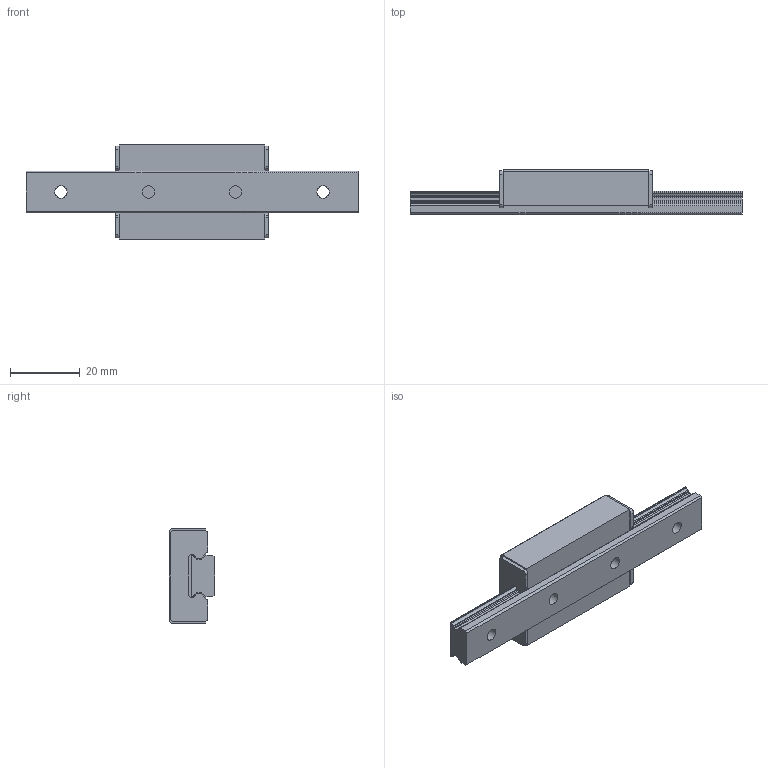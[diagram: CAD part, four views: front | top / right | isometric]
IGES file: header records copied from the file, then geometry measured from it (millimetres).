
Start section: Data from Parasolid IGES Translator 26.0.171, Copyright(c) 2006 Siemens PLM Software. All Rights Reserved.
Global section: file name: EPF12M27-95LM_G10_0_25-65_1.igs; native system: By Siemens PLM Incorporated; preprocessor: XPlus GENERIC/IGES 26.0.171; author: Noname; organization: Noname; date: 20240521.041249; units: millimetre
Bounding box: 95 x 13 x 27 mm (x, y, z)
Surface area: 8594.9 mm2 (no closed solid volume)
Topology: 0 solids, 0 shells, 157 faces, 872 edges, 851 vertices
Faces by surface type: revolution 85, extrusion 72
